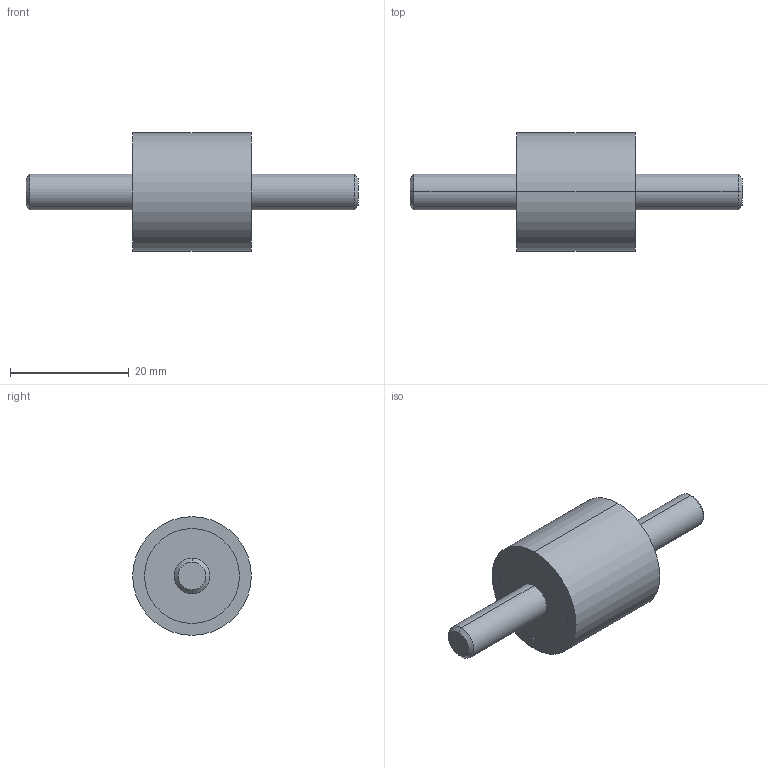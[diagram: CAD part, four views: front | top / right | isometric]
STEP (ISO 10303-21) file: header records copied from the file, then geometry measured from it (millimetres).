
FILE_DESCRIPTION (( 'STEP AP214' ), '1' );
FILE_NAME ('351-20-20-M6-SS-55.step', '2025-07-23T09:52:48', ( '' ), ( '' ), 'SwSTEP 2.0', 'SolidWorks 2022', '' );
FILE_SCHEMA (( 'AUTOMOTIVE_DESIGN' ));
Length unit declared in the file: millimetre
Products named in the file (1): 351-20-20-M6-SS-55
Bounding box: 56 x 20 x 20 mm (x, y, z)
Volume: 7290.2 mm3; surface area: 2549.5 mm2
Topology: 1 solids, 1 shells, 20 faces, 38 edges, 24 vertices
Faces by surface type: cylinder 10, plane 6, cone 4
Entity records: 636 total; most frequent: DIRECTION 104, CARTESIAN_POINT 83, ORIENTED_EDGE 76, AXIS2_PLACEMENT_3D 45, EDGE_CURVE 38, CIRCLE 24, EDGE_LOOP 24, VERTEX_POINT 24
